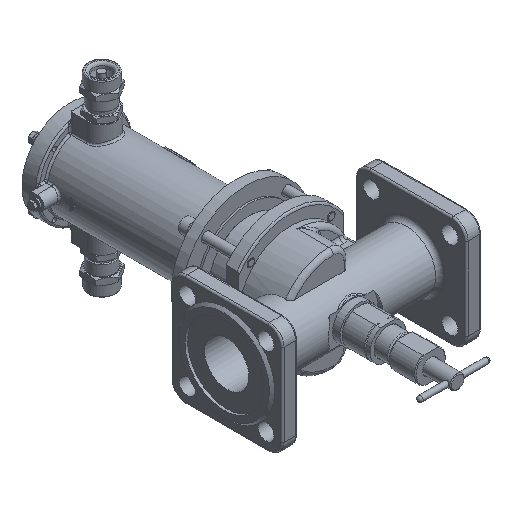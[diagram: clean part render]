
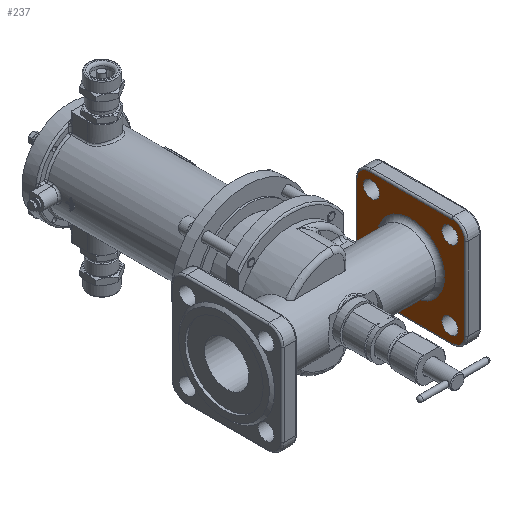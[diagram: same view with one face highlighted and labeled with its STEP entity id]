
A CAD part, isometric view. The second image highlights one B-rep face of the part: STEP entity #237.
In plain terms, the highlighted planar face has unit normal (-1, 0, 0).
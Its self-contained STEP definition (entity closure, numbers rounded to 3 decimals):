
#237=ADVANCED_FACE('',(#5253,#5255,#5257,#5259,#5261,#5263),#5265,.T.);
#5253=FACE_BOUND('',#5254,.T.);
#5254=EDGE_LOOP('',(#21199));
#5255=FACE_BOUND('',#5256,.T.);
#5256=EDGE_LOOP('',(#21200));
#5257=FACE_BOUND('',#5258,.T.);
#5258=EDGE_LOOP('',(#21201));
#5259=FACE_BOUND('',#5260,.T.);
#5260=EDGE_LOOP('',(#21202));
#5261=FACE_BOUND('',#5262,.T.);
#5262=EDGE_LOOP('',(#21203));
#5263=FACE_OUTER_BOUND('',#5264,.T.);
#5264=EDGE_LOOP('',(#21204,#21205,#21206,#21207,#21208,#21209,#21210,#21211));
#5265=PLANE('',#5266);
#5266=AXIS2_PLACEMENT_3D('',#5267,#5268,#5269);
#5267=CARTESIAN_POINT('',(95.,0.,0.));
#5268=DIRECTION('',(-1.,0.,0.));
#5269=DIRECTION('',(0.,1.,0.));
#21199=ORIENTED_EDGE('',*,*,#32326,.F.);
#21200=ORIENTED_EDGE('',*,*,#32391,.T.);
#21201=ORIENTED_EDGE('',*,*,#32392,.T.);
#21202=ORIENTED_EDGE('',*,*,#32393,.T.);
#21203=ORIENTED_EDGE('',*,*,#32394,.T.);
#21204=ORIENTED_EDGE('',*,*,#32395,.T.);
#21205=ORIENTED_EDGE('',*,*,#32396,.T.);
#21206=ORIENTED_EDGE('',*,*,#32397,.T.);
#21207=ORIENTED_EDGE('',*,*,#32398,.T.);
#21208=ORIENTED_EDGE('',*,*,#32399,.T.);
#21209=ORIENTED_EDGE('',*,*,#32400,.T.);
#21210=ORIENTED_EDGE('',*,*,#32401,.T.);
#21211=ORIENTED_EDGE('',*,*,#32402,.T.);
#32326=EDGE_CURVE('',#37445,#37445,#37447,.T.);
#32391=EDGE_CURVE('',#37546,#37546,#37547,.T.);
#32392=EDGE_CURVE('',#37548,#37548,#37549,.T.);
#32393=EDGE_CURVE('',#37550,#37550,#37551,.T.);
#32394=EDGE_CURVE('',#37552,#37552,#37553,.T.);
#32395=EDGE_CURVE('',#37554,#37555,#37556,.T.);
#32396=EDGE_CURVE('',#37555,#37557,#37558,.F.);
#32397=EDGE_CURVE('',#37557,#37559,#37560,.T.);
#32398=EDGE_CURVE('',#37559,#37561,#37562,.F.);
#32399=EDGE_CURVE('',#37561,#37563,#37564,.T.);
#32400=EDGE_CURVE('',#37563,#37565,#37566,.F.);
#32401=EDGE_CURVE('',#37565,#37567,#37568,.T.);
#32402=EDGE_CURVE('',#37567,#37554,#37569,.F.);
#37445=VERTEX_POINT('',#47413);
#37447=CIRCLE('',#47418,38.);
#37546=VERTEX_POINT('',#47913);
#37547=CIRCLE('',#47914,9.);
#37548=VERTEX_POINT('',#47918);
#37549=CIRCLE('',#47919,9.);
#37550=VERTEX_POINT('',#47923);
#37551=CIRCLE('',#47924,9.);
#37552=VERTEX_POINT('',#47928);
#37553=CIRCLE('',#47929,9.);
#37554=VERTEX_POINT('',#47933);
#37555=VERTEX_POINT('',#47934);
#37556=LINE('',#47935,#47936);
#37557=VERTEX_POINT('',#47938);
#37558=CIRCLE('',#47939,14.109);
#37559=VERTEX_POINT('',#47943);
#37560=LINE('',#47944,#47945);
#37561=VERTEX_POINT('',#47947);
#37562=CIRCLE('',#47948,14.109);
#37563=VERTEX_POINT('',#47952);
#37564=LINE('',#47953,#47954);
#37565=VERTEX_POINT('',#47956);
#37566=CIRCLE('',#47957,14.109);
#37567=VERTEX_POINT('',#47961);
#37568=LINE('',#47962,#47963);
#37569=CIRCLE('',#47965,14.109);
#47413=CARTESIAN_POINT('',(95.,38.,0.));
#47418=AXIS2_PLACEMENT_3D('',#47419,#47420,#47421);
#47419=CARTESIAN_POINT('',(95.,0.,0.));
#47420=DIRECTION('',(-1.,0.,0.));
#47421=DIRECTION('',(0.,1.,0.));
#47913=CARTESIAN_POINT('',(95.,44.194,-53.194));
#47914=AXIS2_PLACEMENT_3D('',#47915,#47916,#47917);
#47915=CARTESIAN_POINT('',(95.,44.194,-44.194));
#47916=DIRECTION('',(1.,0.,0.));
#47917=DIRECTION('',(0.,0.,-1.));
#47918=CARTESIAN_POINT('',(95.,-44.194,-53.194));
#47919=AXIS2_PLACEMENT_3D('',#47920,#47921,#47922);
#47920=CARTESIAN_POINT('',(95.,-44.194,-44.194));
#47921=DIRECTION('',(1.,0.,0.));
#47922=DIRECTION('',(0.,0.,-1.));
#47923=CARTESIAN_POINT('',(95.,44.194,53.194));
#47924=AXIS2_PLACEMENT_3D('',#47925,#47926,#47927);
#47925=CARTESIAN_POINT('',(95.,44.194,44.194));
#47926=DIRECTION('',(1.,0.,0.));
#47927=DIRECTION('',(0.,0.,1.));
#47928=CARTESIAN_POINT('',(95.,-44.194,53.194));
#47929=AXIS2_PLACEMENT_3D('',#47930,#47931,#47932);
#47930=CARTESIAN_POINT('',(95.,-44.194,44.194));
#47931=DIRECTION('',(1.,0.,0.));
#47932=DIRECTION('',(0.,0.,1.));
#47933=CARTESIAN_POINT('',(95.,-46.391,60.5));
#47934=CARTESIAN_POINT('',(95.,46.391,60.5));
#47935=CARTESIAN_POINT('',(95.,-46.391,60.5));
#47936=VECTOR('',#47937,1.);
#47937=DIRECTION('',(0.,1.,0.));
#47938=CARTESIAN_POINT('',(95.,60.5,46.391));
#47939=AXIS2_PLACEMENT_3D('',#47940,#47941,#47942);
#47940=CARTESIAN_POINT('',(95.,46.391,46.391));
#47941=DIRECTION('',(1.,0.,0.));
#47942=DIRECTION('',(0.,1.,0.));
#47943=CARTESIAN_POINT('',(95.,60.5,-46.391));
#47944=CARTESIAN_POINT('',(95.,60.5,46.391));
#47945=VECTOR('',#47946,1.);
#47946=DIRECTION('',(0.,0.,-1.));
#47947=CARTESIAN_POINT('',(95.,46.391,-60.5));
#47948=AXIS2_PLACEMENT_3D('',#47949,#47950,#47951);
#47949=CARTESIAN_POINT('',(95.,46.391,-46.391));
#47950=DIRECTION('',(1.,0.,0.));
#47951=DIRECTION('',(0.,0.,-1.));
#47952=CARTESIAN_POINT('',(95.,-46.391,-60.5));
#47953=CARTESIAN_POINT('',(95.,46.391,-60.5));
#47954=VECTOR('',#47955,1.);
#47955=DIRECTION('',(0.,-1.,0.));
#47956=CARTESIAN_POINT('',(95.,-60.5,-46.391));
#47957=AXIS2_PLACEMENT_3D('',#47958,#47959,#47960);
#47958=CARTESIAN_POINT('',(95.,-46.391,-46.391));
#47959=DIRECTION('',(1.,0.,0.));
#47960=DIRECTION('',(0.,-1.,0.));
#47961=CARTESIAN_POINT('',(95.,-60.5,46.391));
#47962=CARTESIAN_POINT('',(95.,-60.5,-46.391));
#47963=VECTOR('',#47964,1.);
#47964=DIRECTION('',(0.,0.,1.));
#47965=AXIS2_PLACEMENT_3D('',#47966,#47967,#47968);
#47966=CARTESIAN_POINT('',(95.,-46.391,46.391));
#47967=DIRECTION('',(1.,0.,0.));
#47968=DIRECTION('',(0.,0.,1.));
